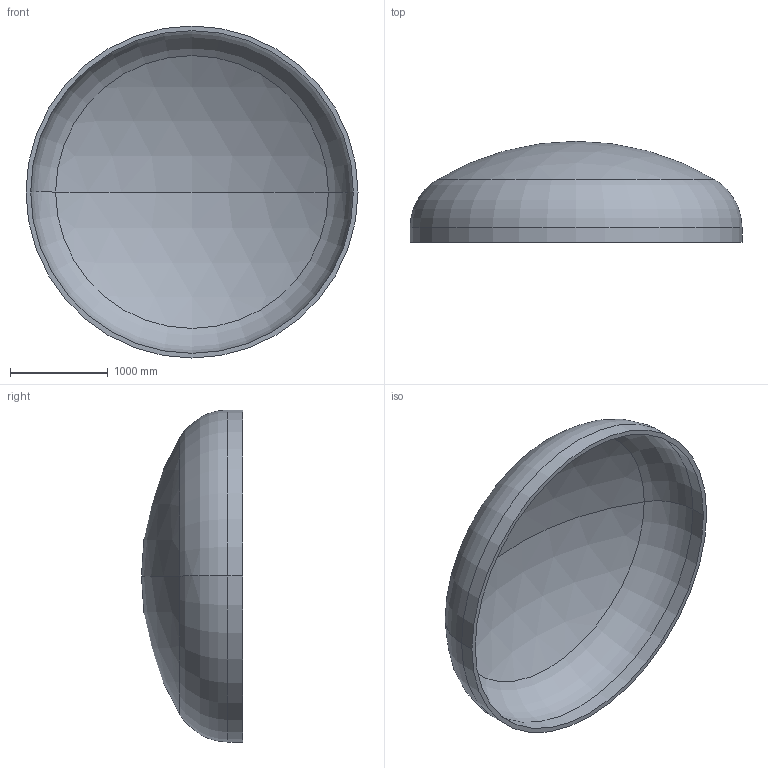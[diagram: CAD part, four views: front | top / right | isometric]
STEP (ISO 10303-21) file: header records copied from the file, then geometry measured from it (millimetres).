
FILE_DESCRIPTION (( 'STEP AP203' ), '1' );
FILE_NAME ('DIN 28013 Korbbogenform_-_Boden DIN 28013 - 3400 x 150 - I - s=48.step', '2016-07-01T19:34:21', ( '' ), ( '' ), 'SwSTEP 2.0', 'SolidWorks 2013', '' );
FILE_SCHEMA (( 'CONFIG_CONTROL_DESIGN' ));
Length unit declared in the file: millimetre
Products named in the file (1): DIN 28013 Korbbogenform_-_Boden DIN 28013 - 3400 x 150 - I - s=48
Bounding box: 3400 x 1034.41 x 3400 mm (x, y, z)
Volume: 668558491.5 mm3; surface area: 28366889.4 mm2
Topology: 1 solids, 1 shells, 13 faces, 24 edges, 14 vertices
Faces by surface type: torus 4, cylinder 4, sphere 4, plane 1
Entity records: 407 total; most frequent: DIRECTION 72, CARTESIAN_POINT 52, ORIENTED_EDGE 48, AXIS2_PLACEMENT_3D 34, EDGE_CURVE 24, CIRCLE 20, EDGE_LOOP 14, VERTEX_POINT 14
